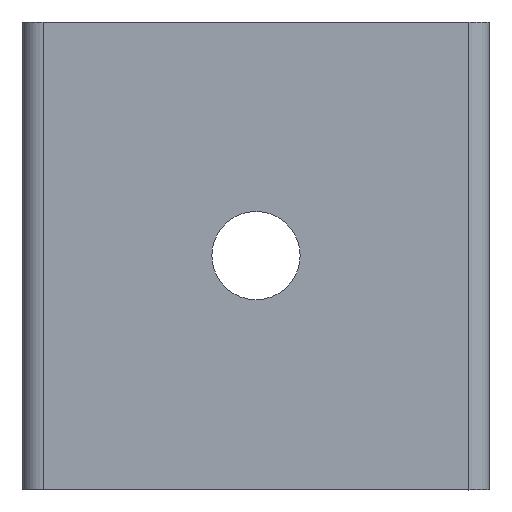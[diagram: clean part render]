
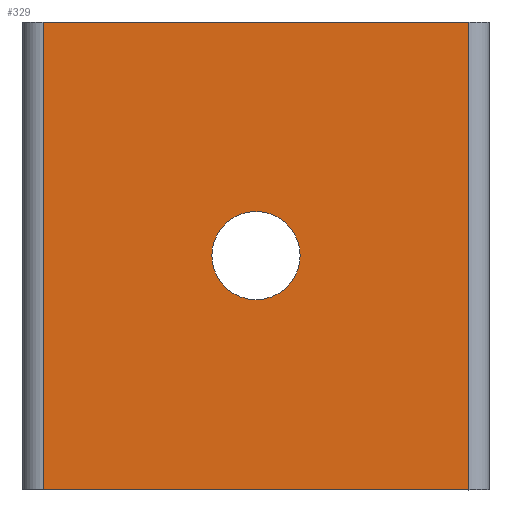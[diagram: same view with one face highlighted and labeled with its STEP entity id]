
A CAD part, top view. The second image highlights one B-rep face of the part: STEP entity #329.
In plain terms, the highlighted planar face has unit normal (0, 0, 1).
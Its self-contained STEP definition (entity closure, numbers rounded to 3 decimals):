
#59=FACE_BOUND('',#101,.T.);
#63=PLANE('',#378);
#83=FACE_OUTER_BOUND('',#100,.T.);
#100=EDGE_LOOP('',(#269,#270,#271,#272));
#101=EDGE_LOOP('',(#273));
#121=LINE('',#576,#143);
#122=LINE('',#579,#144);
#123=LINE('',#581,#145);
#124=LINE('',#582,#146);
#143=VECTOR('',#456,10.);
#144=VECTOR('',#459,10.);
#145=VECTOR('',#460,10.);
#146=VECTOR('',#461,10.);
#161=CIRCLE('',#370,4.25);
#179=VERTEX_POINT('',#553);
#186=VERTEX_POINT('',#572);
#187=VERTEX_POINT('',#574);
#188=VERTEX_POINT('',#578);
#189=VERTEX_POINT('',#580);
#208=EDGE_CURVE('',#179,#179,#161,.T.);
#219=EDGE_CURVE('',#186,#187,#121,.T.);
#220=EDGE_CURVE('',#188,#186,#122,.T.);
#221=EDGE_CURVE('',#189,#187,#123,.T.);
#222=EDGE_CURVE('',#188,#189,#124,.T.);
#269=ORIENTED_EDGE('',*,*,#220,.T.);
#270=ORIENTED_EDGE('',*,*,#219,.T.);
#271=ORIENTED_EDGE('',*,*,#221,.F.);
#272=ORIENTED_EDGE('',*,*,#222,.F.);
#273=ORIENTED_EDGE('',*,*,#208,.T.);
#329=ADVANCED_FACE('',(#83,#59),#63,.T.);
#370=AXIS2_PLACEMENT_3D('',#554,#434,#435);
#378=AXIS2_PLACEMENT_3D('',#577,#457,#458);
#434=DIRECTION('center_axis',(0.,0.,-1.));
#435=DIRECTION('ref_axis',(-1.,0.,0.));
#456=DIRECTION('',(0.,1.,0.));
#457=DIRECTION('center_axis',(0.,0.,1.));
#458=DIRECTION('ref_axis',(1.,0.,0.));
#459=DIRECTION('',(1.,0.,0.));
#460=DIRECTION('',(1.,0.,0.));
#461=DIRECTION('',(0.,1.,0.));
#553=CARTESIAN_POINT('',(-18.25,22.5,0.));
#554=CARTESIAN_POINT('Origin',(-22.5,22.5,0.));
#572=CARTESIAN_POINT('',(-2.,0.,0.));
#574=CARTESIAN_POINT('',(-2.,45.,0.));
#576=CARTESIAN_POINT('',(-2.,0.,0.));
#577=CARTESIAN_POINT('Origin',(-43.,0.,0.));
#578=CARTESIAN_POINT('',(-43.,0.,0.));
#579=CARTESIAN_POINT('',(-43.,0.,0.));
#580=CARTESIAN_POINT('',(-43.,45.,0.));
#581=CARTESIAN_POINT('',(-43.,45.,0.));
#582=CARTESIAN_POINT('',(-43.,0.,0.));
